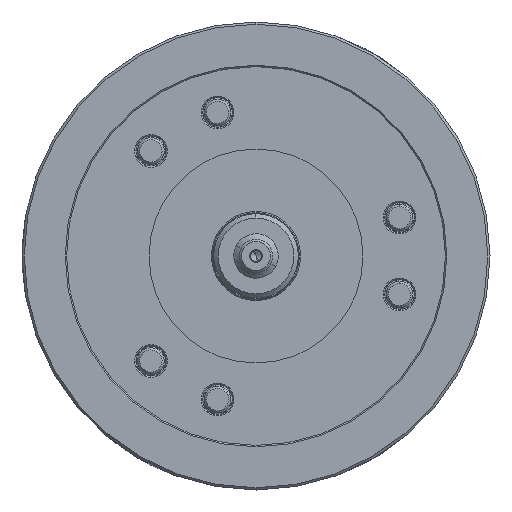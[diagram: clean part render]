
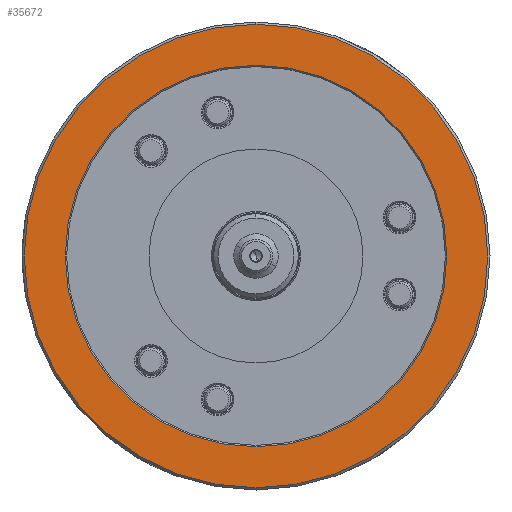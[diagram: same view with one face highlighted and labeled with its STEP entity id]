
A CAD part, left-side view. The second image highlights one B-rep face of the part: STEP entity #35672.
In plain terms, the highlighted planar face has unit normal (-1, 0, 0).
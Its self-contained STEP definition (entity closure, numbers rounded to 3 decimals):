
#614 = EDGE_LOOP ( 'NONE', ( #30133, #47106 ) ) ;
#2238 = CIRCLE ( 'NONE', #29014, 104. ) ;
#2335 = DIRECTION ( 'NONE',  ( 1., 0., 0. ) ) ;
#3250 = EDGE_CURVE ( 'NONE', #35635, #29679, #47149, .T. ) ;
#4065 = ORIENTED_EDGE ( 'NONE', *, *, #38468, .T. ) ;
#6749 = DIRECTION ( 'NONE',  ( 1., 0., 0. ) ) ;
#8201 = VERTEX_POINT ( 'NONE', #43576 ) ;
#9349 = AXIS2_PLACEMENT_3D ( 'NONE', #14934, #40603, #18623 ) ;
#11313 = CARTESIAN_POINT ( 'NONE',  ( -94., 0., 0. ) ) ;
#12060 = DIRECTION ( 'NONE',  ( 1., 0., 0. ) ) ;
#12977 = CIRCLE ( 'NONE', #15438, 85.6 ) ;
#13208 = CARTESIAN_POINT ( 'NONE',  ( -94., 0., 0. ) ) ;
#13327 = EDGE_CURVE ( 'NONE', #8201, #18696, #12977, .T. ) ;
#14934 = CARTESIAN_POINT ( 'NONE',  ( -94., 0., 0. ) ) ;
#15020 = DIRECTION ( 'NONE',  ( 0., 0., -1. ) ) ;
#15438 = AXIS2_PLACEMENT_3D ( 'NONE', #34072, #12060, #37786 ) ;
#16021 = EDGE_LOOP ( 'NONE', ( #43775, #4065 ) ) ;
#18623 = DIRECTION ( 'NONE',  ( 0., 0., -1. ) ) ;
#18639 = FACE_BOUND ( 'NONE', #16021, .T. ) ;
#18696 = VERTEX_POINT ( 'NONE', #26367 ) ;
#19787 = FACE_OUTER_BOUND ( 'NONE', #614, .T. ) ;
#23210 = AXIS2_PLACEMENT_3D ( 'NONE', #28714, #6749, #32406 ) ;
#24145 = CARTESIAN_POINT ( 'NONE',  ( -94., 0., -104. ) ) ;
#26367 = CARTESIAN_POINT ( 'NONE',  ( -94., 0., -85.6 ) ) ;
#26478 = AXIS2_PLACEMENT_3D ( 'NONE', #13208, #2335, #27977 ) ;
#27977 = DIRECTION ( 'NONE',  ( 0., 0., -1. ) ) ;
#28665 = CIRCLE ( 'NONE', #9349, 85.6 ) ;
#28714 = CARTESIAN_POINT ( 'NONE',  ( -94., 0., 0. ) ) ;
#29014 = AXIS2_PLACEMENT_3D ( 'NONE', #11313, #37023, #15020 ) ;
#29679 = VERTEX_POINT ( 'NONE', #39641 ) ;
#30133 = ORIENTED_EDGE ( 'NONE', *, *, #3250, .F. ) ;
#32406 = DIRECTION ( 'NONE',  ( 0., 0., -1. ) ) ;
#34072 = CARTESIAN_POINT ( 'NONE',  ( -94., 0., 0. ) ) ;
#35635 = VERTEX_POINT ( 'NONE', #24145 ) ;
#35672 = ADVANCED_FACE ( 'NONE', ( #19787, #18639 ), #42570, .F. ) ;
#37023 = DIRECTION ( 'NONE',  ( 1., 0., 0. ) ) ;
#37786 = DIRECTION ( 'NONE',  ( 0., 0., -1. ) ) ;
#38468 = EDGE_CURVE ( 'NONE', #18696, #8201, #28665, .T. ) ;
#38573 = EDGE_CURVE ( 'NONE', #29679, #35635, #2238, .T. ) ;
#39641 = CARTESIAN_POINT ( 'NONE',  ( -94., 0., 104. ) ) ;
#40603 = DIRECTION ( 'NONE',  ( 1., 0., 0. ) ) ;
#42570 = PLANE ( 'NONE',  #26478 ) ;
#43576 = CARTESIAN_POINT ( 'NONE',  ( -94., 0., 85.6 ) ) ;
#43775 = ORIENTED_EDGE ( 'NONE', *, *, #13327, .T. ) ;
#47106 = ORIENTED_EDGE ( 'NONE', *, *, #38573, .F. ) ;
#47149 = CIRCLE ( 'NONE', #23210, 104. ) ;
